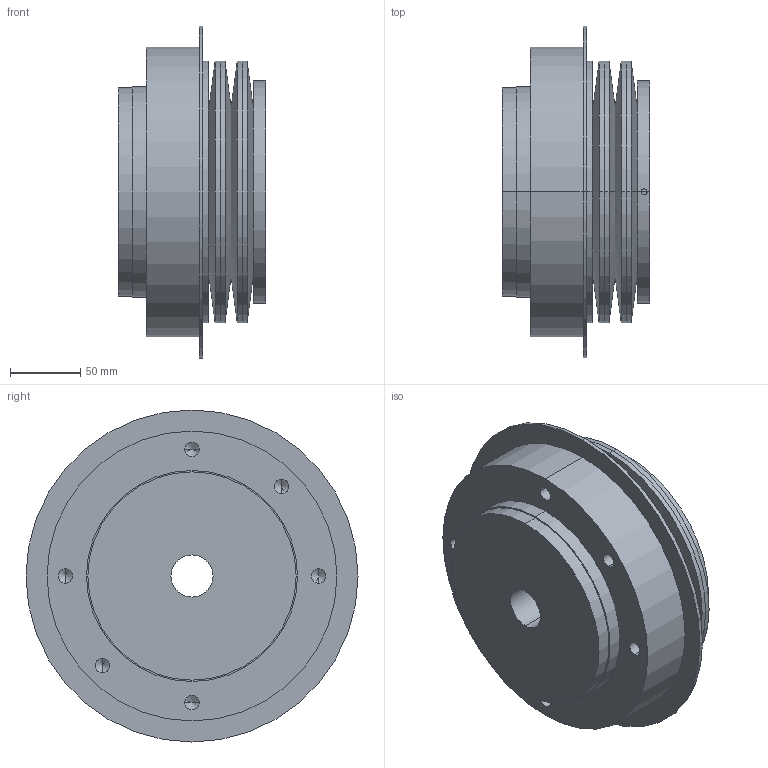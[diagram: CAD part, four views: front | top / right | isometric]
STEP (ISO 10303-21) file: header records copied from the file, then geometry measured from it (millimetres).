
FILE_DESCRIPTION (( 'STEP AP203' ), '1' );
FILE_NAME ('ST14F-180B.STEP', '2009-09-30T17:41:02', ( 'USER' ), ( 'HOME' ), 'SwSTEP 2.0', 'SolidWorks 2007', '' );
FILE_SCHEMA (( 'CONFIG_CONTROL_DESIGN' ));
Length unit declared in the file: millimetre
Products named in the file (1): ST14F-180B
Bounding box: 105 x 236 x 236 mm (x, y, z)
Volume: 2492241.2 mm3; surface area: 356241.4 mm2
Topology: 7 solids, 7 shells, 91 faces, 204 edges, 114 vertices
Faces by surface type: cylinder 52, cone 30, plane 9
Entity records: 2739 total; most frequent: CARTESIAN_POINT 634, DIRECTION 460, ORIENTED_EDGE 384, EDGE_CURVE 192, AXIS2_PLACEMENT_3D 188, VERTEX_POINT 114, EDGE_LOOP 108, CIRCLE 96
